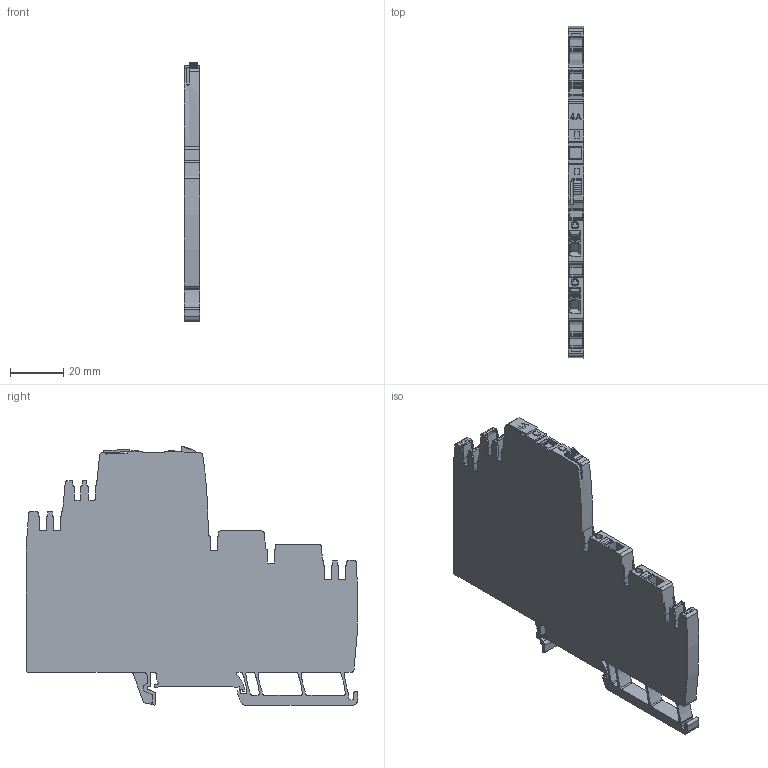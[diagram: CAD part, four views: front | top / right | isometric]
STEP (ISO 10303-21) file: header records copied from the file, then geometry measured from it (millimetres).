
FILE_DESCRIPTION(('CATIA V5R24 STEP','CAx-IF Rec.Pracs.--- Model Styling and Organization---1.2---2011-12-15'),'2;1');
FILE_NAME('\\SRVDE107\Germany\WMC\1_WMC_Input\Step_BU_PA\2080490000.stp','2017-09-05T07:38:40+00:00',('Weidmueller Interface'),('WI'),'CATIA Version 5-6 Release 2014 SP4','CATIA V5 STEP AP214','none');
FILE_SCHEMA(('AUTOMOTIVE_DESIGN { 1 0 10303 214 1 1 1 1 }'));
Length unit declared in the file: millimetre
Products named in the file (1): 2080490000
Bounding box: 6 x 125.07 x 97.53 mm (x, y, z)
Volume: 46747.3 mm3; surface area: 24196.4 mm2
Topology: 11 solids, 11 shells, 1112 faces, 3281 edges, 2219 vertices
Faces by surface type: plane 634, cylinder 453, extrusion 23, bspline 2
Entity records: 37916 total; most frequent: CARTESIAN_POINT 7942, ORIENTED_EDGE 6562, DIRECTION 4981, EDGE_CURVE 3281, VECTOR 2232, VERTEX_POINT 2219, LINE 2209, AXIS2_PLACEMENT_3D 1834
